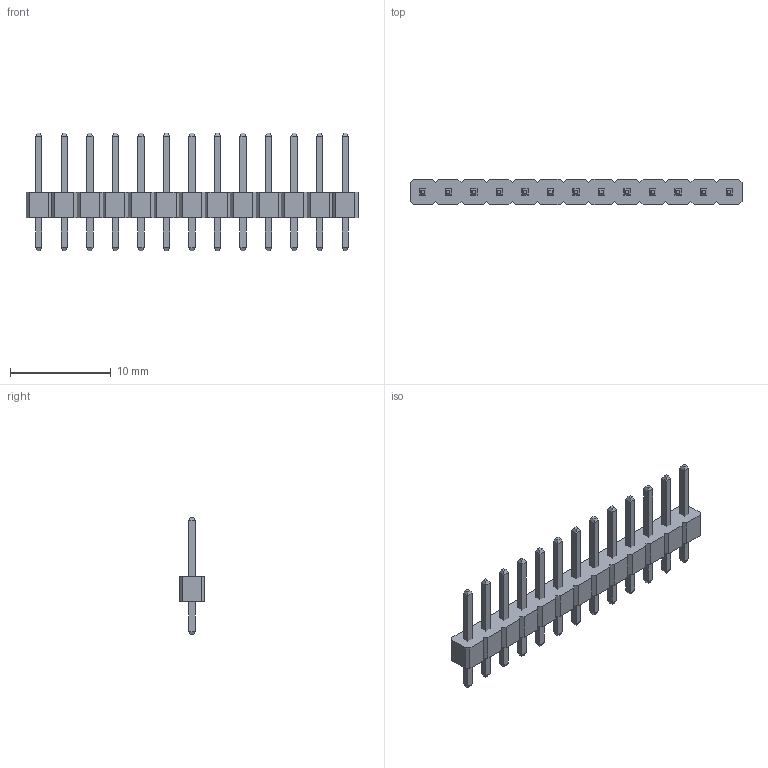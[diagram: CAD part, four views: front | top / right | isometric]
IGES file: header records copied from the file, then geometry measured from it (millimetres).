
Start section: Data from Parasolid IGES Translator 23.1.110, Copyright(c) 2006 Siemens PLM Software. All Rights Reserved.
Global section: file name: 5f3dd622933f190f816bcb4e.iges; native system: By Siemens PLM Incorporated; preprocessor: XPlus GENERIC/IGES 23.1.110; author: Noname; organization: Noname; date: 20200820.014715; units: metre
Bounding box: 33.02 x 2.54 x 11.68 mm (x, y, z)
Surface area: 752.8 mm2 (no closed solid volume)
Topology: 0 solids, 0 shells, 342 faces, 1520 edges, 1520 vertices
Faces by surface type: extrusion 342
